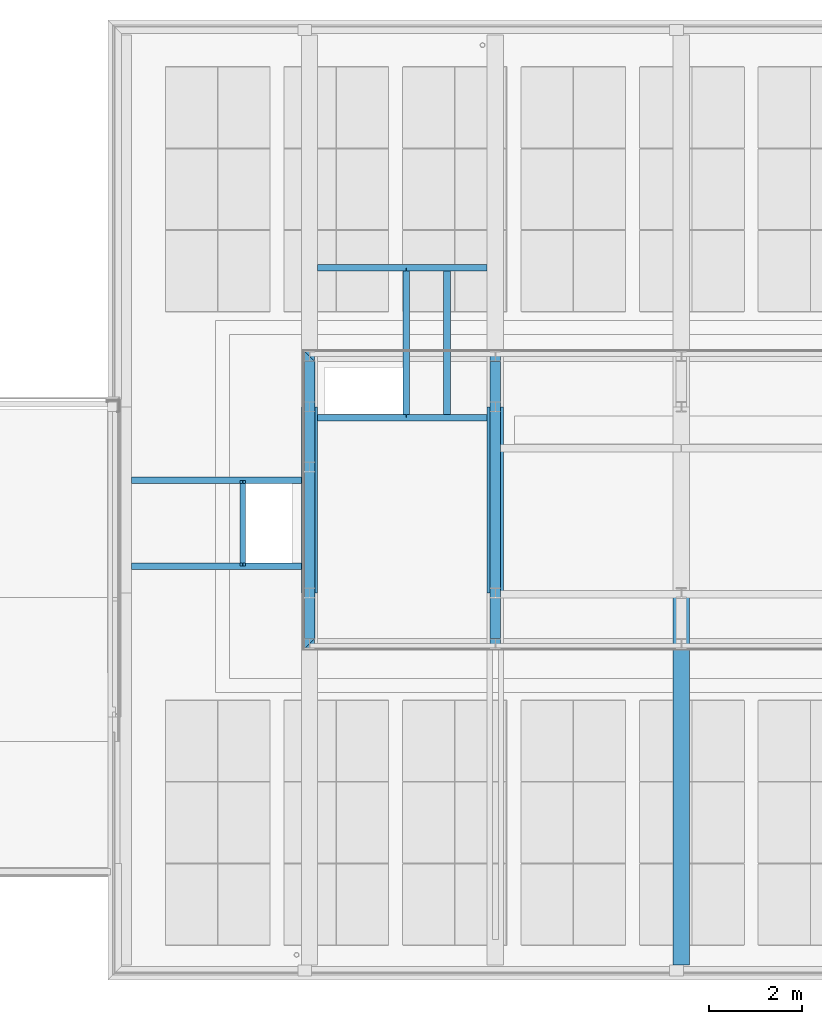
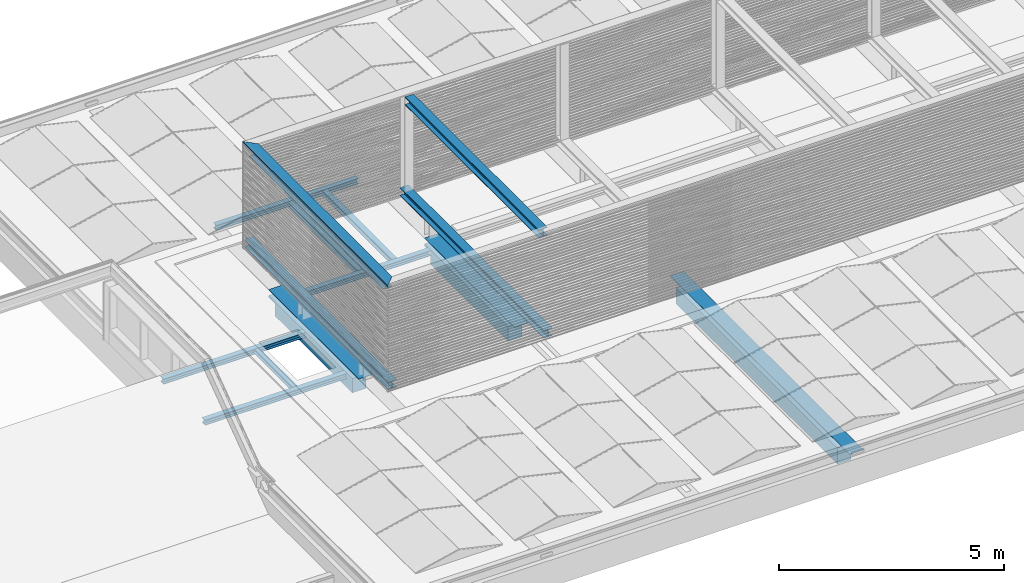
# One storey, part 7 of 63: 15 beams.
"""IFC2X3 building model written with IfcOpenShell, lengths in millimetres."""

from ifc_helpers import new_model, entity, si_unit, converted_unit, derived_unit, money_unit, direction, frame, origin_with_axes, place, context, subcontext, project, spatial, faceted_brep, material, type_object, element, save


model = new_model("IFC2X3")

# Units and contexts
model_context = context("Model", 3, precision=0.01, world=origin_with_axes(), true_north=direction((0.0, 1.0)))
body_context = subcontext(model_context, "Body", "Model", "MODEL_VIEW")
ifc_project = project(units=[si_unit("LENGTHUNIT", "METRE", prefix="MILLI"), si_unit("AREAUNIT", "SQUARE_METRE"), si_unit("VOLUMEUNIT", "CUBIC_METRE"), converted_unit("PLANEANGLEUNIT", "DEGREE", entity("IfcPlaneAngleMeasure", 0.0174532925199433), si_unit("PLANEANGLEUNIT", "RADIAN"), dimensions=[0, 0, 0, 0, 0, 0, 0]), money_unit("EUR"), converted_unit("TIMEUNIT", "Year", entity("IfcTimeMeasure", 31557600.0), si_unit("TIMEUNIT", "SECOND"), dimensions=[0, 0, 1, 0, 0, 0, 0]), si_unit("MASSUNIT", "GRAM", prefix="KILO"), si_unit("THERMODYNAMICTEMPERATUREUNIT", "DEGREE_CELSIUS"), si_unit("LUMINOUSINTENSITYUNIT", "LUMEN"), si_unit("ENERGYUNIT", "JOULE", prefix="MEGA"), derived_unit("THERMALCONDUCTANCEUNIT", [(si_unit("POWERUNIT", "WATT"), 1), (si_unit("LENGTHUNIT", "METRE"), -1), (si_unit("THERMODYNAMICTEMPERATUREUNIT", "KELVIN"), -1)]), derived_unit("SPECIFICHEATCAPACITYUNIT", [(si_unit("ENERGYUNIT", "JOULE"), 1), (si_unit("MASSUNIT", "GRAM", prefix="KILO"), -1), (si_unit("THERMODYNAMICTEMPERATUREUNIT", "KELVIN"), -1)]), derived_unit("MASSDENSITYUNIT", [(si_unit("MASSUNIT", "GRAM", prefix="KILO"), 1), (si_unit("VOLUMEUNIT", "CUBIC_METRE"), -1)])], contexts=[model_context])

# Site, building, storey
site_placement = place(None, origin_with_axes())
site = spatial("IfcSite", under=ifc_project, at=site_placement, Name="<site naam>", CompositionType="ELEMENT")
building_placement = place(site_placement, origin_with_axes())
building = spatial("IfcBuilding", under=site, at=building_placement, Name="<Naam gebouw>", CompositionType="ELEMENT")
storey_placement = place(building_placement, frame((0.0, 0.0, 12770.0), z_axis=(0.0, 0.0, 1.0), x_axis=(1.0, 0.0, 0.0)))
storey = spatial("IfcBuildingStorey", under=building, at=storey_placement, Name="04 4e verdieping", CompositionType="ELEMENT", Elevation=12770.0)

# Beams
ifc_material_1 = material(Name="staal C")
beam_type_1 = type_object("IfcBeamType", Name="HEB220 220 x 220", PredefinedType="BEAM")
beam_1_placement = place(storey_placement, frame((20000.00000000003, 13200.00001151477, 444.1514325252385), z_axis=(0.0, 0.0, 1.0), x_axis=(-1.0, 0.0, 0.0)))
element("IfcBeam", 1, at=beam_1_placement, inside=storey, type_object=beam_type_1, material=ifc_material_1, Name="Info_Balk_HEB220", ObjectType="BEAM", context=body_context, shape_type="Brep", body=[
    faceted_brep([(-109.9999999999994, 0.0, 115.5000000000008), (-109.9999999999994, 6400.00001151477, 115.5000000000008), (-109.9999999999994, 6400.00001151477, 99.50000000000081), (-109.9999999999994, 0.0, 99.50000000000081), (109.9999999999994, 0.0, 115.5000000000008), (109.9999999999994, 6400.00001151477, 115.5000000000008), (109.9999999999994, 6400.00001151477, 99.50000000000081), (4.749999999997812, 6400.00001151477, 99.50000000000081), (4.749999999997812, 6400.00001151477, -88.4999999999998), (109.9999999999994, 6400.00001151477, -88.4999999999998), (109.9999999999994, 6400.00001151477, -104.4999999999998), (-109.9999999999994, 6400.00001151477, -104.4999999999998), (-109.9999999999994, 6400.00001151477, -88.4999999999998), (-4.750000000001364, 6400.00001151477, -88.4999999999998), (-4.750000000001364, 6400.00001151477, 99.50000000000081), (-4.750000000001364, 0.0, 99.50000000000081), (-4.750000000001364, 0.0, -88.4999999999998), (-109.9999999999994, 0.0, -88.4999999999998), (-109.9999999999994, 0.0, -104.4999999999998), (109.9999999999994, 0.0, -104.4999999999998), (109.9999999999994, 0.0, -88.4999999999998), (4.750000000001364, 0.0, -88.4999999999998), (4.750000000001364, 0.0, 99.50000000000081), (109.9999999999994, 0.0, 99.50000000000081)], [[[0, 1, 2, 3]], [[4, 5, 1, 0]], [[2, 1, 5, 6, 7, 8, 9, 10, 11, 12, 13, 14]], [[3, 2, 14, 15]], [[4, 0, 3, 15, 16, 17, 18, 19, 20, 21, 22, 23]], [[23, 6, 5, 4]], [[22, 7, 6, 23]], [[21, 8, 7, 22]], [[20, 9, 8, 21]], [[19, 10, 9, 20]], [[18, 11, 10, 19]], [[17, 12, 11, 18]], [[16, 13, 12, 17]], [[15, 14, 13, 16]]]),
])
beam_2_placement = place(storey_placement, frame((20000.00000000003, 12980.00000000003, 3039.88580884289), z_axis=(0.0, 0.0, 1.0), x_axis=(-1.0, 0.0, 0.0)))
element("IfcBeam", 2, at=beam_2_placement, inside=storey, type_object=beam_type_1, material=ifc_material_1, Name="Info_Balk_HEB220", ObjectType="BEAM", context=body_context, shape_type="Brep", body=[
    faceted_brep([(-109.9999999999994, 0.0, 115.5000000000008), (-109.9999999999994, 5960.000000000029, 115.5000000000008), (-109.9999999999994, 5960.000000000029, 99.50000000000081), (-109.9999999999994, 0.0, 99.50000000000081), (109.9999999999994, 0.0, 115.5000000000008), (109.9999999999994, 5960.000000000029, 115.5000000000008), (109.9999999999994, 5960.000000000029, 99.50000000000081), (4.749999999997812, 5960.000000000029, 99.50000000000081), (4.749999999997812, 5960.000000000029, -88.4999999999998), (109.9999999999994, 5960.000000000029, -88.4999999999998), (109.9999999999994, 5960.000000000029, -104.4999999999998), (-109.9999999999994, 5960.000000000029, -104.4999999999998), (-109.9999999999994, 5960.000000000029, -88.4999999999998), (-4.750000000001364, 5960.000000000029, -88.4999999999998), (-4.750000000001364, 5960.000000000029, 99.50000000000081), (-4.750000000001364, 0.0, 99.50000000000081), (-4.750000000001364, 0.0, -88.4999999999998), (-109.9999999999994, 0.0, -88.4999999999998), (-109.9999999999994, 0.0, -104.4999999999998), (109.9999999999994, 0.0, -104.4999999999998), (109.9999999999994, 0.0, -88.4999999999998), (4.750000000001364, 0.0, -88.4999999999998), (4.750000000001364, 0.0, 99.50000000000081), (109.9999999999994, 0.0, 99.50000000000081)], [[[0, 1, 2, 3]], [[4, 5, 1, 0]], [[2, 1, 5, 6, 7, 8, 9, 10, 11, 12, 13, 14]], [[3, 2, 14, 15]], [[4, 0, 3, 15, 16, 17, 18, 19, 20, 21, 22, 23]], [[23, 6, 5, 4]], [[22, 7, 6, 23]], [[21, 8, 7, 22]], [[20, 9, 8, 21]], [[19, 10, 9, 20]], [[18, 11, 10, 19]], [[17, 12, 11, 18]], [[16, 13, 12, 17]], [[15, 14, 13, 16]]]),
])
beam_3_placement = place(storey_placement, frame((16000.00000000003, 13200.00001151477, 444.1514325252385), z_axis=(0.0, 0.0, 1.0), x_axis=(-1.0, 0.0, 0.0)))
element("IfcBeam", 3, at=beam_3_placement, inside=storey, type_object=beam_type_1, material=ifc_material_1, Name="Info_Balk_HEB220", ObjectType="BEAM", context=body_context, shape_type="Brep", body=[
    faceted_brep([(-109.9999999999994, 0.0, 115.5000000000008), (-109.9999999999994, 6400.00001151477, 115.5000000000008), (-109.9999999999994, 6400.00001151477, 99.50000000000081), (-109.9999999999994, 0.0, 99.50000000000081), (109.9999999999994, 0.0, 115.5000000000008), (109.9999999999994, 6400.00001151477, 115.5000000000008), (109.9999999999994, 6400.00001151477, 99.50000000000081), (4.749999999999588, 6400.00001151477, 99.50000000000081), (4.749999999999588, 6400.00001151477, -88.4999999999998), (109.9999999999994, 6400.00001151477, -88.4999999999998), (109.9999999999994, 6400.00001151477, -104.4999999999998), (-109.9999999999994, 6400.00001151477, -104.4999999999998), (-109.9999999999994, 6400.00001151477, -88.4999999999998), (-4.750000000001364, 6400.00001151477, -88.4999999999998), (-4.750000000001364, 6400.00001151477, 99.50000000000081), (-4.750000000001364, 0.0, 99.50000000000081), (-4.750000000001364, 0.0, -88.4999999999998), (-109.9999999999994, 0.0, -88.4999999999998), (-109.9999999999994, 0.0, -104.4999999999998), (109.9999999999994, 0.0, -104.4999999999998), (109.9999999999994, 0.0, -88.4999999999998), (4.749999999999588, 0.0, -88.4999999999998), (4.749999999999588, 0.0, 99.50000000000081), (109.9999999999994, 0.0, 99.50000000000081)], [[[0, 1, 2, 3]], [[4, 5, 1, 0]], [[2, 1, 5, 6, 7, 8, 9, 10, 11, 12, 13, 14]], [[3, 2, 14, 15]], [[4, 0, 3, 15, 16, 17, 18, 19, 20, 21, 22, 23]], [[23, 6, 5, 4]], [[22, 7, 6, 23]], [[21, 8, 7, 22]], [[20, 9, 8, 21]], [[19, 10, 9, 20]], [[18, 11, 10, 19]], [[17, 12, 11, 18]], [[16, 13, 12, 17]], [[15, 14, 13, 16]]]),
])
beam_4_placement = place(storey_placement, frame((16000.00000000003, 12980.00000000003, 3039.88580884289), z_axis=(0.0, 0.0, 1.0), x_axis=(-1.0, 0.0, 0.0)))
element("IfcBeam", 4, at=beam_4_placement, inside=storey, type_object=beam_type_1, material=ifc_material_1, Name="Info_Balk_HEB220", ObjectType="BEAM", context=body_context, shape_type="Brep", body=[
    faceted_brep([(-109.9999999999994, 0.0, 115.5000000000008), (-109.9999999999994, 5960.000000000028, 115.5000000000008), (-109.9999999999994, 5960.000000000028, 99.50000000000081), (-109.9999999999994, 0.0, 99.50000000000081), (109.9999999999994, 0.0, 115.5000000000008), (109.9999999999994, 5960.000000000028, 115.5000000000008), (109.9999999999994, 5960.000000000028, 99.50000000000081), (4.749999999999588, 5960.000000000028, 99.50000000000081), (4.749999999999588, 5960.000000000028, -88.4999999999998), (109.9999999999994, 5960.000000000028, -88.4999999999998), (109.9999999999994, 5960.000000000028, -104.4999999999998), (-109.9999999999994, 5960.000000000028, -104.4999999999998), (-109.9999999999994, 5960.000000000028, -88.4999999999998), (-4.750000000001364, 5960.000000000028, -88.4999999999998), (-4.750000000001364, 5960.000000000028, 99.50000000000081), (-4.750000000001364, 0.0, 99.50000000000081), (-4.750000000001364, 0.0, -88.4999999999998), (-109.9999999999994, 0.0, -88.4999999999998), (-109.9999999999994, 0.0, -104.4999999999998), (109.9999999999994, 0.0, -104.4999999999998), (109.9999999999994, 0.0, -88.4999999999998), (4.749999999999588, 0.0, -88.4999999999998), (4.749999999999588, 0.0, 99.50000000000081), (109.9999999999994, 0.0, 99.50000000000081)], [[[0, 1, 2, 3]], [[4, 5, 1, 0]], [[2, 1, 5, 6, 7, 8, 9, 10, 11, 12, 13, 14]], [[3, 2, 14, 15]], [[4, 0, 3, 15, 16, 17, 18, 19, 20, 21, 22, 23]], [[23, 6, 5, 4]], [[22, 7, 6, 23]], [[21, 8, 7, 22]], [[20, 9, 8, 21]], [[19, 10, 9, 20]], [[18, 11, 10, 19]], [[17, 12, 11, 18]], [[16, 13, 12, 17]], [[15, 14, 13, 16]]]),
])
ifc_material_2 = material(Name="beton_gewapend C")
beam_type_2 = type_object("IfcBeamType", Name="beton_gewapend C 350 x 600", PredefinedType="BEAM")
beam_5_placement = place(storey_placement, frame((24000.00000000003, 7994.453850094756, -59.99999999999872), z_axis=(0.0, 0.0, 1.0), x_axis=(-1.0, 0.0, 0.0)))
element("IfcBeam", 5, at=beam_5_placement, inside=storey, type_object=beam_type_2, material=ifc_material_2, Name="28_Balk_beton_gewapend", ObjectType="BEAM", context=body_context, shape_type="Brep", body=[
    faceted_brep([(174.9999999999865, 269.453850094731, -159.9999853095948), (175.0000000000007, 7444.453850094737, -159.9999853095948), (-175.0000000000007, 7444.453850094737, -159.9999853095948), (-175.0000000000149, 269.453850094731, -159.9999853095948), (174.9999999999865, 269.453850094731, -599.9999999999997), (175.0000000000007, 7444.453850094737, -599.9999999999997), (-175.0000000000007, 7444.453850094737, -599.9999999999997), (-175.0000000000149, 269.453850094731, -599.9999999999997)], [[[0, 1, 2, 3]], [[4, 5, 1, 0]], [[5, 6, 2, 1]], [[3, 2, 6, 7]], [[4, 0, 3, 7]], [[7, 6, 5, 4]]]),
    faceted_brep([(-175.0000000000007, 7994.453850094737, 0.0), (-175.0000000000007, 7994.453850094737, -9.99998530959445), (-175.0000000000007, 0.0, -9.99998530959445), (-175.0000000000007, 0.0, 0.0), (175.0000000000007, 7994.453850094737, 0.0), (175.0000000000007, 7994.453850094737, -9.99998530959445), (175.0000000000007, 0.0, -9.99998530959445), (175.0000000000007, 0.0, 0.0)], [[[0, 1, 2, 3]], [[4, 5, 1, 0]], [[5, 6, 2, 1]], [[3, 2, 6, 7]], [[3, 7, 4, 0]], [[7, 6, 5, 4]]]),
])
beam_type_3 = type_object("IfcBeamType", Name="beton_gewapend C 350 x 550", PredefinedType="BEAM")
beam_6_placement = place(storey_placement, frame((20000.00000000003, 12000.00000000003, -59.99999999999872), z_axis=(0.0, 0.0, 1.0), x_axis=(-1.0, 0.0, 0.0)))
element("IfcBeam", 6, at=beam_6_placement, inside=storey, type_object=beam_type_3, material=ifc_material_2, Name="28_Balk_beton_gewapend", ObjectType="BEAM", context=body_context, shape_type="Brep", body=[
    faceted_brep([(175.0000000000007, 0.0, -159.9999853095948), (174.9999999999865, 3725.0, -159.9999853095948), (-175.0000000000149, 3725.0, -159.9999853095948), (-175.0000000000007, 0.0, -159.9999853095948), (174.9999999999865, 275.0000000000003, -550.0000000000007), (174.9999999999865, 3725.0, -550.0000000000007), (174.9999999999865, 0.0, -220.0000000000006), (174.9999999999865, 275.0000000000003, -220.0000000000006), (-175.0000000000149, 3725.0, -550.0000000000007), (-175.0000000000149, 275.0000000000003, -550.0000000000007), (-175.0000000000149, 275.0000000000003, -220.0000000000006), (-175.0000000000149, 0.0, -220.0000000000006)], [[[0, 1, 2, 3]], [[4, 5, 1, 0, 6, 7]], [[5, 8, 2, 1]], [[3, 2, 8, 9, 10, 11]], [[3, 11, 6, 0]], [[9, 8, 5, 4]], [[7, 6, 11, 10]], [[7, 10, 9, 4]]]),
    faceted_brep([(-175.0000000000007, 4005.54614990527, 0.0), (-175.0000000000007, 4005.54614990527, -9.99998530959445), (-175.0000000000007, 0.0, -9.99998530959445), (-175.0000000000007, 0.0, 0.0), (175.0000000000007, 4005.54614990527, 0.0), (175.0000000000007, 4005.54614990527, -9.99998530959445), (175.0000000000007, 0.0, -9.99998530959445), (175.0000000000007, 0.0, 0.0)], [[[0, 1, 2, 3]], [[4, 5, 1, 0]], [[5, 6, 2, 1]], [[3, 2, 6, 7]], [[3, 7, 4, 0]], [[7, 6, 5, 4]]]),
])
beam_7_placement = place(storey_placement, frame((16000.00000000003, 12000.00000000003, -59.99999999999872), z_axis=(0.0, 0.0, 1.0), x_axis=(-1.0, 0.0, 0.0)))
element("IfcBeam", 7, at=beam_7_placement, inside=storey, type_object=beam_type_3, material=ifc_material_2, Name="28_Balk_beton_gewapend", ObjectType="BEAM", context=body_context, shape_type="Brep", body=[
    faceted_brep([(175.0000000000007, 0.0, -159.9999853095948), (174.9999999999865, 3725.0, -159.9999853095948), (-175.0000000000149, 3725.0, -159.9999853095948), (-175.0000000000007, 0.0, -159.9999853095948), (174.9999999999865, 275.0000000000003, -550.0000000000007), (174.9999999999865, 3725.0, -550.0000000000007), (174.9999999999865, 0.0, -220.0000000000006), (174.9999999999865, 275.0000000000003, -220.0000000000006), (-175.0000000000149, 3725.0, -550.0000000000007), (-175.0000000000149, 275.0000000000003, -550.0000000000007), (-175.0000000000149, 275.0000000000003, -220.0000000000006), (-175.0000000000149, 0.0, -220.0000000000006)], [[[0, 1, 2, 3]], [[4, 5, 1, 0, 6, 7]], [[5, 8, 2, 1]], [[3, 2, 8, 9, 10, 11]], [[3, 11, 6, 0]], [[9, 8, 5, 4]], [[7, 6, 11, 10]], [[7, 10, 9, 4]]]),
    faceted_brep([(-175.0000000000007, 4005.54614990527, 0.0), (-175.0000000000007, 4005.54614990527, -9.99998530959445), (-175.0000000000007, 0.0, -9.99998530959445), (-175.0000000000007, 0.0, 0.0), (174.9999999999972, 4005.54614990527, 0.0), (174.9999999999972, 4005.54614990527, -9.99998530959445), (175.0000000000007, 0.0, -9.99998530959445), (175.0000000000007, 0.0, 0.0)], [[[0, 1, 2, 3]], [[4, 5, 1, 0]], [[5, 6, 2, 1]], [[3, 2, 6, 7]], [[3, 7, 4, 0]], [[7, 6, 5, 4]]]),
])
ifc_material_3 = material(Name="staal")
beam_type_4 = type_object("IfcBeamType", Name="stalen gevelschermafdekker 255 x 35", PredefinedType="BEAM")
beam_8_placement = place(storey_placement, frame((15854.99992141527, 13240.53637630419, 2921.405981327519), z_axis=(0.0, 0.0, 1.0), x_axis=(-1.0, 0.0, 0.0)))
element("IfcBeam", 8, at=beam_8_placement, inside=storey, type_object=beam_type_4, material=ifc_material_3, Name="Info_Balk_stalen", ObjectType="BEAM", context=body_context, shape_type="Brep", body=[
    faceted_brep([(-264.9874219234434, 6216.009805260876, 284.0000084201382), (-264.9874219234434, 265.0221288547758, 284.0000084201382), (-9.999999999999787, 10.00130975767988, 284.0000084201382), (-10.00000000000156, 6471.030624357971, 284.0000084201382), (-264.9874219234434, 6216.009805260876, 259.0000084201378), (-264.9874219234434, 265.0221288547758, 259.0000084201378), (-11.01997556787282, 11.02141891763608, 283.0000014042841), (-11.01997556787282, 11.02141891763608, 249.000008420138), (-9.999999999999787, 10.00130975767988, 249.000008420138), (-264.0199747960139, 264.0545550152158, 259.0000084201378), (-264.0199747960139, 264.0545550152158, 283.0000014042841), (-10.00000000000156, 6471.030624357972, 249.000008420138), (-264.0199747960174, 6216.977379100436, 259.0000084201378), (-11.01997556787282, 6470.010515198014, 249.000008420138), (-11.01997556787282, 6470.010515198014, 283.0000014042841), (-264.0199747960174, 6216.977379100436, 283.0000014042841)], [[[0, 1, 2, 3]], [[4, 5, 1, 0]], [[6, 7, 8, 2, 1, 5, 9, 10]], [[3, 2, 8, 11]], [[12, 4, 0, 3, 11, 13, 14, 15]], [[12, 9, 5, 4]], [[13, 7, 6, 14]], [[11, 8, 7, 13]], [[15, 10, 9, 12]], [[14, 6, 10, 15]]]),
])
beam_type_5 = type_object("IfcBeamType", Name="Profiel H algemeen 140 x 140", PredefinedType="BEAM")
for number, where, z_axis, x_axis, name in (
    (9, (12175.00000000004, 8579.724088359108, -290.0000000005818), (0.0, 0.0, 1.0), (0.0, -1.0, 0.0), "28_Balk_Profiel"),
    (10, (12175.00000000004, 10419.72408835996, -290.0000000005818), (0.0, 0.0, 1.0), (0.0, -1.0, 0.0), "28_Balk_Profiel"),
):
    element("IfcBeam", number, at=place(storey_placement, frame(where, z_axis=z_axis, x_axis=x_axis)), inside=storey, type_object=beam_type_5, material=ifc_material_1, Name=name, ObjectType="BEAM", context=body_context, shape_type="Brep", body=[
        faceted_brep([(70.00000000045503, 0.0, -57.99999999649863), (70.00000000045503, 3649.999999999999, -57.99999999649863), (3.499999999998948, 3649.999999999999, -57.99999999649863), (3.500000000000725, 0.0, -57.99999999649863), (70.00000000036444, 0.0, -70.00000000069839), (70.00000000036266, 3649.999999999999, -70.00000000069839), (-70.00000000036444, 3649.999999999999, -70.00000000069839), (-70.00000000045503, 3649.999999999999, -57.99999999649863), (-3.500000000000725, 3649.999999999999, -57.99999999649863), (-3.500000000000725, 3649.999999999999, 57.99999999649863), (-70.00000000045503, 3649.999999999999, 57.99999999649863), (-70.00000000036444, 3649.999999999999, 70.00000000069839), (70.00000000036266, 3649.999999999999, 70.00000000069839), (70.00000000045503, 3649.999999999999, 57.99999999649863), (3.499999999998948, 3649.999999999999, 57.99999999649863), (3.500000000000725, 0.0, 57.99999999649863), (70.00000000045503, 0.0, 57.99999999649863), (70.00000000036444, 0.0, 70.00000000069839), (-70.00000000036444, 0.0, 70.00000000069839), (-70.00000000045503, 0.0, 57.99999999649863), (-3.500000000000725, 0.0, 57.99999999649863), (-3.500000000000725, 0.0, -57.99999999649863), (-70.00000000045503, 0.0, -57.99999999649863), (-70.00000000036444, 0.0, -70.00000000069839)], [[[0, 1, 2, 3]], [[4, 5, 1, 0]], [[2, 1, 5, 6, 7, 8, 9, 10, 11, 12, 13, 14]], [[3, 2, 14, 15]], [[4, 0, 3, 15, 16, 17, 18, 19, 20, 21, 22, 23]], [[23, 6, 5, 4]], [[22, 7, 6, 23]], [[21, 8, 7, 22]], [[20, 9, 8, 21]], [[19, 10, 9, 20]], [[18, 11, 10, 19]], [[17, 12, 11, 18]], [[16, 13, 12, 17]], [[15, 14, 13, 16]]]),
    ])
beam_9_placement = place(storey_placement, frame((16175.00000000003, 14995.00000000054, -290.0000000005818), z_axis=(0.0, 0.0, 1.0), x_axis=(0.0, -1.0, 0.0)))
element("IfcBeam", 11, at=beam_9_placement, inside=storey, type_object=beam_type_5, material=ifc_material_1, Name="28_Balk_Profiel", ObjectType="BEAM", context=body_context, shape_type="Brep", body=[
    faceted_brep([(70.00000000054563, 0.0, -57.99999999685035), (70.00000000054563, 3649.999999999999, -57.99999999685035), (3.499999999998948, 3649.999999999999, -57.99999999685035), (3.500000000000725, 0.0, -57.99999999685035), (70.00000000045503, 0.0, -70.00000000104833), (70.00000000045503, 3649.999999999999, -70.00000000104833), (-70.00000000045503, 3649.999999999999, -70.00000000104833), (-70.00000000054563, 3649.999999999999, -57.99999999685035), (-3.500000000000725, 3649.999999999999, -57.99999999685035), (-3.500000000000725, 3649.999999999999, 57.99999999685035), (-70.00000000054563, 3649.999999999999, 57.99999999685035), (-70.00000000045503, 3649.999999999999, 70.00000000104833), (70.00000000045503, 3649.999999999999, 70.00000000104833), (70.00000000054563, 3649.999999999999, 57.99999999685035), (3.499999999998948, 3649.999999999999, 57.99999999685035), (3.500000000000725, 0.0, 57.99999999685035), (70.00000000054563, 0.0, 57.99999999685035), (70.00000000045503, 0.0, 70.00000000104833), (-70.00000000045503, 0.0, 70.00000000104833), (-70.00000000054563, 0.0, 57.99999999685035), (-3.500000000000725, 0.0, 57.99999999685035), (-3.500000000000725, 0.0, -57.99999999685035), (-70.00000000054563, 0.0, -57.99999999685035), (-70.00000000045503, 0.0, -70.00000000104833)], [[[0, 1, 2, 3]], [[4, 5, 1, 0]], [[2, 1, 5, 6, 7, 8, 9, 10, 11, 12, 13, 14]], [[3, 2, 14, 15]], [[4, 0, 3, 15, 16, 17, 18, 19, 20, 21, 22, 23]], [[23, 6, 5, 4]], [[22, 7, 6, 23]], [[21, 8, 7, 22]], [[20, 9, 8, 21]], [[19, 10, 9, 20]], [[18, 11, 10, 19]], [[17, 12, 11, 18]], [[16, 13, 12, 17]], [[15, 14, 13, 16]]]),
])
beam_10_placement = place(storey_placement, frame((18085.00000001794, 14995.00000000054, -290.0000000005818), z_axis=(0.0, 0.0, 1.0), x_axis=(-1.0, 0.0, 0.0)))
element("IfcBeam", 12, at=beam_10_placement, inside=storey, type_object=beam_type_5, material=ifc_material_1, Name="28_Balk_Profiel", ObjectType="BEAM", context=body_context, shape_type="Brep", body=[
    faceted_brep([(-70.0000000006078, 3155.000000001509, 57.99999999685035), (-70.00000000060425, 70.00000000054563, 57.99999999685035), (-70.00000000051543, 70.00000000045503, 70.00000000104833), (-70.00000000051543, 3155.0000000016, 70.00000000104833), (-3.499999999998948, 3155.000000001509, 57.99999999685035), (-3.499999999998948, 70.00000000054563, 57.99999999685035), (70.00000000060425, 70.00000000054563, 57.99999999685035), (70.00000000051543, 70.00000000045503, 70.00000000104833), (3.499999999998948, 70.00000000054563, 57.99999999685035), (70.00000000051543, 3155.0000000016, 70.00000000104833), (3.499999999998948, 3155.000000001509, 57.99999999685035), (70.00000000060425, 3155.000000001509, 57.99999999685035), (-3.499999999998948, 3.499999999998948, -57.99999999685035), (-3.499999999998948, 3.499999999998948, 57.99999999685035), (-3.499999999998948, 3221.500000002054, 57.99999999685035), (-3.499999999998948, 3221.500000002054, -57.99999999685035), (-3.499999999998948, 3155.000000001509, -57.99999999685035), (-3.499999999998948, 70.00000000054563, -57.99999999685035), (3.499999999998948, 3.499999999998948, 57.99999999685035), (3.499999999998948, 3221.500000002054, 57.99999999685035), (3.499999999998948, 3.499999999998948, -57.99999999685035), (3.499999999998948, 3221.500000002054, -57.99999999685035), (3.499999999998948, 3155.000000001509, -57.99999999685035), (-70.0000000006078, 3155.000000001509, -57.99999999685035), (-70.00000000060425, 70.00000000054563, -57.99999999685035), (3.499999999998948, 70.00000000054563, -57.99999999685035), (70.00000000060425, 3155.000000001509, -57.99999999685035), (70.00000000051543, 3155.0000000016, -70.00000000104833), (-70.00000000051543, 3155.0000000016, -70.00000000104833), (-70.00000000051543, 70.00000000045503, -70.00000000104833), (70.00000000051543, 70.00000000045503, -70.00000000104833), (70.00000000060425, 70.00000000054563, -57.99999999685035)], [[[0, 1, 2, 3]], [[4, 5, 1, 0]], [[6, 7, 2, 1, 5, 8]], [[3, 2, 7, 9]], [[10, 4, 0, 3, 9, 11]], [[12, 13, 5, 4, 14, 15, 16, 17]], [[9, 7, 6, 11]], [[8, 5, 13, 18]], [[11, 6, 8, 10]], [[10, 19, 14, 4]], [[18, 13, 12, 20]], [[19, 21, 15, 14]], [[21, 22, 16, 15]], [[23, 24, 17, 16]], [[20, 12, 17, 25]], [[18, 20, 25, 22, 21, 19, 10, 8]], [[26, 27, 28, 23, 16, 22]], [[28, 29, 24, 23]], [[25, 17, 24, 29, 30, 31]], [[22, 25, 31, 26]], [[26, 31, 30, 27]], [[27, 30, 29, 28]]]),
])
beam_11_placement = place(storey_placement, frame((16175.00000000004, 11769.99999999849, -290.0000000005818), z_axis=(0.0, 0.0, 1.0), x_axis=(0.0, -1.0, 0.0)))
element("IfcBeam", 13, at=beam_11_placement, inside=storey, type_object=beam_type_5, material=ifc_material_1, Name="28_Balk_Profiel", ObjectType="BEAM", context=body_context, shape_type="Brep", body=[
    faceted_brep([(70.00000000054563, 0.0, -57.99999999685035), (70.00000000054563, 3649.999999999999, -57.99999999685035), (3.499999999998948, 3649.999999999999, -57.99999999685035), (3.500000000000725, 0.0, -57.99999999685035), (70.00000000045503, 0.0, -70.00000000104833), (70.00000000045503, 3649.999999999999, -70.00000000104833), (-70.00000000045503, 3649.999999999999, -70.00000000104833), (-70.00000000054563, 3649.999999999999, -57.99999999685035), (-3.500000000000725, 3649.999999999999, -57.99999999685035), (-3.500000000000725, 3649.999999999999, 57.99999999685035), (-70.00000000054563, 3649.999999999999, 57.99999999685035), (-70.00000000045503, 3649.999999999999, 70.00000000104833), (70.00000000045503, 3649.999999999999, 70.00000000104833), (70.00000000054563, 3649.999999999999, 57.99999999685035), (3.499999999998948, 3649.999999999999, 57.99999999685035), (3.500000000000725, 0.0, 57.99999999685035), (70.00000000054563, 0.0, 57.99999999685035), (70.00000000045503, 0.0, 70.00000000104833), (-70.00000000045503, 0.0, 70.00000000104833), (-70.00000000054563, 0.0, 57.99999999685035), (-3.500000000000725, 0.0, 57.99999999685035), (-3.500000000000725, 0.0, -57.99999999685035), (-70.00000000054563, 0.0, -57.99999999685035), (-70.00000000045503, 0.0, -70.00000000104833)], [[[0, 1, 2, 3]], [[4, 5, 1, 0]], [[2, 1, 5, 6, 7, 8, 9, 10, 11, 12, 13, 14]], [[3, 2, 14, 15]], [[4, 0, 3, 15, 16, 17, 18, 19, 20, 21, 22, 23]], [[23, 6, 5, 4]], [[22, 7, 6, 23]], [[21, 8, 7, 22]], [[20, 9, 8, 21]], [[19, 10, 9, 20]], [[18, 11, 10, 19]], [[17, 12, 11, 18]], [[16, 13, 12, 17]], [[15, 14, 13, 16]]]),
])
beam_12_placement = place(storey_placement, frame((18959.99999999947, 14995.00000000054, -290.0000000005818), z_axis=(0.0, 0.0, 1.0), x_axis=(-1.0, 0.0, 0.0)))
element("IfcBeam", 14, at=beam_12_placement, inside=storey, type_object=beam_type_5, material=ifc_material_1, Name="28_Balk_Profiel", ObjectType="BEAM", context=body_context, shape_type="Brep", body=[
    faceted_brep([(-70.0000000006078, 3155.000000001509, 57.99999999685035), (-70.00000000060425, 70.00000000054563, 57.99999999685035), (-70.00000000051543, 70.00000000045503, 70.00000000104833), (-70.00000000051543, 3155.0000000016, 70.00000000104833), (-3.499999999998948, 3155.000000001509, 57.99999999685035), (-3.499999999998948, 70.00000000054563, 57.99999999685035), (70.00000000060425, 70.00000000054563, 57.99999999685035), (70.00000000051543, 70.00000000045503, 70.00000000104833), (3.499999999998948, 70.00000000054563, 57.99999999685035), (70.00000000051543, 3155.0000000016, 70.00000000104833), (3.499999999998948, 3155.000000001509, 57.99999999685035), (70.00000000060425, 3155.000000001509, 57.99999999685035), (-3.499999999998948, 3.499999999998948, -57.99999999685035), (-3.499999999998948, 3.499999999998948, 57.99999999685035), (-3.499999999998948, 3221.500000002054, 57.99999999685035), (-3.499999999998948, 3221.500000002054, -57.99999999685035), (-3.499999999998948, 3155.000000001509, -57.99999999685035), (-3.499999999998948, 70.00000000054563, -57.99999999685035), (3.499999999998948, 3.499999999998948, 57.99999999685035), (3.499999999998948, 3221.500000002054, 57.99999999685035), (3.499999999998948, 3.499999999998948, -57.99999999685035), (3.499999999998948, 3221.500000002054, -57.99999999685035), (3.499999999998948, 3155.000000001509, -57.99999999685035), (-70.0000000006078, 3155.000000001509, -57.99999999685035), (-70.00000000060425, 70.00000000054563, -57.99999999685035), (3.499999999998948, 70.00000000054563, -57.99999999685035), (70.00000000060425, 3155.000000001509, -57.99999999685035), (70.00000000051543, 3155.0000000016, -70.00000000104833), (-70.00000000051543, 3155.0000000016, -70.00000000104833), (-70.00000000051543, 70.00000000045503, -70.00000000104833), (70.00000000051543, 70.00000000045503, -70.00000000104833), (70.00000000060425, 70.00000000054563, -57.99999999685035)], [[[0, 1, 2, 3]], [[4, 5, 1, 0]], [[6, 7, 2, 1, 5, 8]], [[3, 2, 7, 9]], [[10, 4, 0, 3, 9, 11]], [[12, 13, 5, 4, 14, 15, 16, 17]], [[9, 7, 6, 11]], [[8, 5, 13, 18]], [[11, 6, 8, 10]], [[10, 19, 14, 4]], [[18, 13, 12, 20]], [[19, 21, 15, 14]], [[21, 22, 16, 15]], [[23, 24, 17, 16]], [[20, 12, 17, 25]], [[18, 20, 25, 22, 21, 19, 10, 8]], [[26, 27, 28, 23, 16, 22]], [[28, 29, 24, 23]], [[25, 17, 24, 29, 30, 31]], [[22, 25, 31, 26]], [[26, 31, 30, 27]], [[27, 30, 29, 28]]]),
])
beam_type_6 = type_object("IfcBeamType", Name="Profiel H algemeen 120 x 120", PredefinedType="BEAM")
beam_13_placement = place(storey_placement, frame((14564.99999999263, 10419.72408835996, -280.000000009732), z_axis=(0.0, 0.0, 1.0), x_axis=(-1.0, 0.0, 0.0)))
element("IfcBeam", 15, at=beam_13_placement, inside=storey, type_object=beam_type_6, material=ifc_material_1, Name="28_Balk_Profiel", ObjectType="BEAM", context=body_context, shape_type="Brep", body=[
    faceted_brep([(-60.00000000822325, 1836.500000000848, -60.00000001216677), (-60.00000000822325, 3.499999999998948, -60.00000001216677), (-60.00000000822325, 3.499999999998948, -48.99999990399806), (-60.00000000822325, 1836.500000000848, -48.99999990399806), (60.00000000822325, 1836.500000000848, -60.00000001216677), (60.00000000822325, 3.499999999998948, -60.00000001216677), (-3.250000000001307, 3.499999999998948, 48.00000000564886), (-3.249999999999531, 3.499999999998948, -48.99999990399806), (60.00000000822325, 3.499999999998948, -48.99999990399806), (3.249999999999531, 3.499999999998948, -48.99999990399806), (3.249999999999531, 3.499999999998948, 48.00000000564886), (-3.249999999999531, 1836.500000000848, -48.99999990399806), (60.00000000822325, 1836.500000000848, -48.99999990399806), (-3.250000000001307, 1836.500000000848, 48.00000000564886), (3.249999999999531, 1836.500000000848, 48.00000000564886), (3.249999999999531, 1836.500000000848, -48.99999990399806), (-3.250000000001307, 70.00000000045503, 48.00000000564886), (-3.250000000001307, 70.00000000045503, 48.99999990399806), (-3.250000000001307, 1770.000000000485, 48.99999990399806), (-3.250000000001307, 1770.000000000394, 48.00000000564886), (3.249999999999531, 70.00000000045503, 48.00000000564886), (3.249999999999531, 1770.000000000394, 48.00000000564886), (3.249999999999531, 1770.000000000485, 48.99999990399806), (3.249999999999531, 70.00000000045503, 48.99999990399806), (60.00000000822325, 70.00000000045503, 48.99999990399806), (60.00000000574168, 70.00000000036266, 60.00000000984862), (-60.00000000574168, 70.00000000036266, 60.00000000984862), (-60.00000000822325, 70.00000000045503, 48.99999990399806), (-60.00000000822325, 1770.000000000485, 48.99999990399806), (-60.00000000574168, 1770.000000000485, 60.00000000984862), (60.00000000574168, 1770.000000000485, 60.00000000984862), (60.00000000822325, 1770.000000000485, 48.99999990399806)], [[[0, 1, 2, 3]], [[4, 5, 1, 0]], [[6, 7, 2, 1, 5, 8, 9, 10]], [[3, 2, 7, 11]], [[12, 4, 0, 3, 11, 13, 14, 15]], [[12, 8, 5, 4]], [[6, 16, 17, 18, 19, 13, 11, 7]], [[15, 9, 8, 12]], [[20, 10, 9, 15, 14, 21, 22, 23]], [[20, 16, 6, 10]], [[21, 14, 13, 19]], [[24, 25, 26, 27, 17, 16, 20, 23]], [[18, 17, 27, 28]], [[19, 18, 28, 29, 30, 31, 22, 21]], [[31, 24, 23, 22]], [[30, 25, 24, 31]], [[29, 26, 25, 30]], [[28, 27, 26, 29]]]),
])

save(model, "model.ifc")
